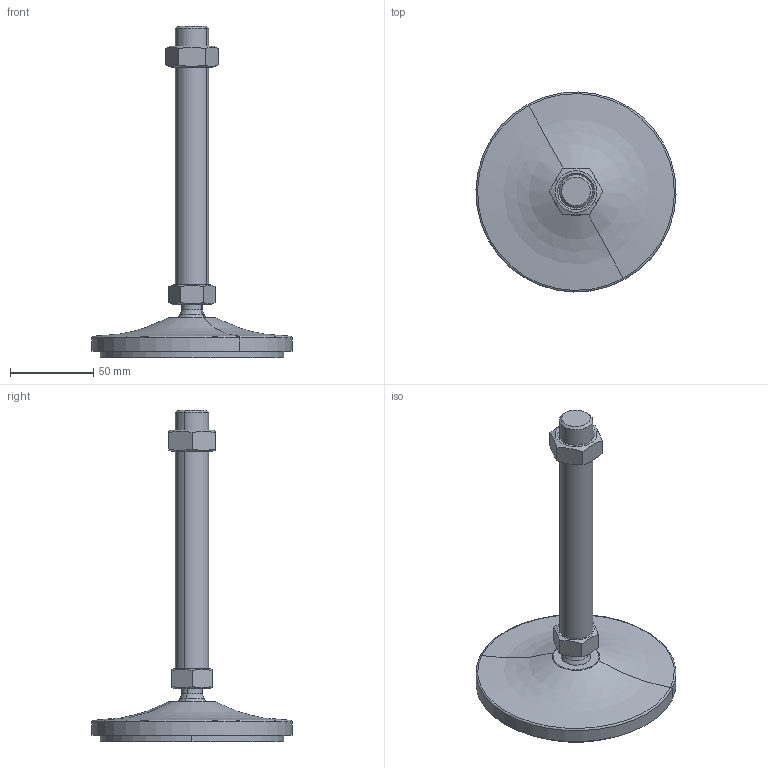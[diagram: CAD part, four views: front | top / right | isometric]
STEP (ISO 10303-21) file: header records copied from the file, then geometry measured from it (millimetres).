
FILE_DESCRIPTION(('CATIA V5 STEP Exchange'),'2;1');
FILE_NAME('C:\Users\ALI OZGUN\Desktop\alhan\saplama2\560122021AV.stp','2017-09-21T10:32:08+00:00',('none'),('none'),'CATIA Version 5 Release 21 GA (IN-10)','CATIA V5 STEP AP203','none');
FILE_SCHEMA(('CONFIG_CONTROL_DESIGN'));
Length unit declared in the file: millimetre
Products named in the file (1): 560122021AV
Bounding box: 119.97 x 119.97 x 199 mm (x, y, z)
Volume: 232324.4 mm3; surface area: 65386.8 mm2
Topology: 4 solids, 4 shells, 64 faces, 142 edges, 87 vertices
Faces by surface type: plane 22, cylinder 16, cone 16, torus 4, revolution 4, sphere 2
Entity records: 1957 total; most frequent: CARTESIAN_POINT 649, ORIENTED_EDGE 280, DIRECTION 197, EDGE_CURVE 140, AXIS2_PLACEMENT_3D 106, VERTEX_POINT 87, EDGE_LOOP 71, ADVANCED_FACE 64
